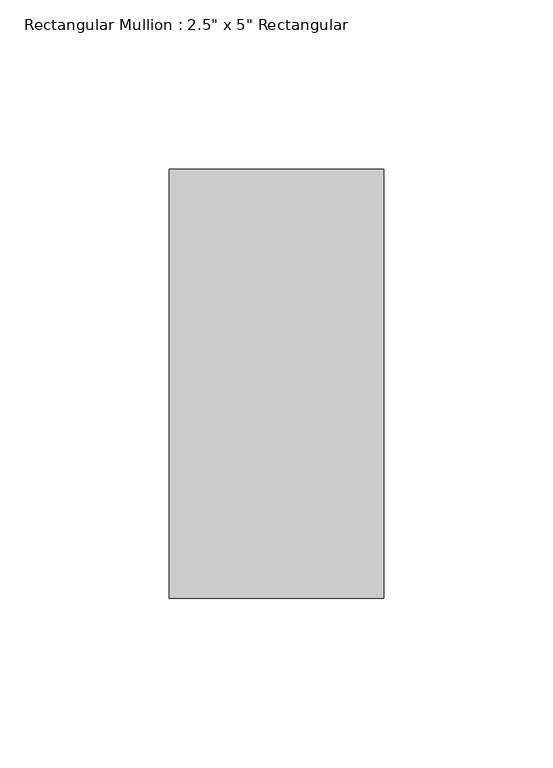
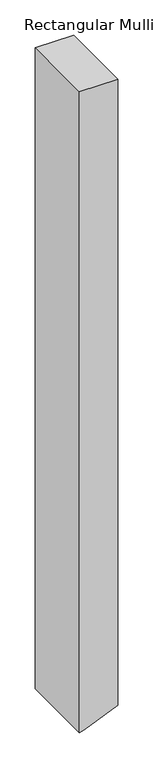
"""IFC4 building model written with IfcOpenShell, lengths in millimetres: member geometry."""

import ifcopenshell
import ifcopenshell.guid

model = None  # the IFC model being written
_history = None  # IfcOwnerHistory: only IFC2X3 demands one
_inside = {}  # id of a spatial element -> (the spatial element, [elements in it])
_under = {}  # id of a project, library or spatial element -> (it, [spatial elements below it])
_declared = {}  # id of a project -> (the project, [libraries it declares])
_typed = {}  # id of a type object -> (the type object, [elements of that type])
_made_of = {}  # id of a material, layer set ... -> (it, [elements and type objects made of it])


def new_model(schema):
    """Start an empty IFC model of exactly this schema.

    Asked for "IFC4X3", IfcOpenShell would pick the latest addendum, in which some entities
    have other attributes; the version numbers below select the first issue.
    IFC2X3 requires an IfcOwnerHistory on every rooted entity: one is made here for all.
    """
    global model, _history
    if schema == "IFC4X3":
        model = ifcopenshell.file(schema_version=(4, 3, 0, 0))
    else:
        model = ifcopenshell.file(schema=schema)
    _inside.clear()
    _under.clear()
    _declared.clear()
    _typed.clear()
    _made_of.clear()
    _history = None
    if model.schema == "IFC2X3":
        org = make("IfcOrganization", Name="unknown")
        user = make(
            "IfcPersonAndOrganization",
            ThePerson=make("IfcPerson", FamilyName="unknown"),
            TheOrganization=org,
        )
        app = make(
            "IfcApplication",
            ApplicationDeveloper=org,
            Version="unknown",
            ApplicationFullName="unknown",
            ApplicationIdentifier="unknown",
        )
        _history = make(
            "IfcOwnerHistory",
            OwningUser=user,
            OwningApplication=app,
            ChangeAction="ADDED",
            CreationDate=0,
        )
    return model


def make(cls, **values):
    """One entity of the class cls with the attributes given. An attribute that is None is left unset."""
    return model.create_entity(
        cls, **{name: value for name, value in values.items() if value is not None}
    )


def rooted(cls, **values):
    """An entity with a GlobalId (a new one), such as an element, a storey or a relation."""
    return make(cls, GlobalId=ifcopenshell.guid.new(), OwnerHistory=_history, **values)


def si_unit(unit_type, name, prefix=None):
    """IfcSIUnit, for example si_unit("LENGTHUNIT", "METRE", prefix="MILLI")."""
    return make("IfcSIUnit", UnitType=unit_type, Prefix=prefix, Name=name)


def assignment(units):
    """IfcUnitAssignment: the units of a project."""
    return None if units is None else make("IfcUnitAssignment", Units=units)


def point(xyz):
    """IfcCartesianPoint."""
    return None if xyz is None else make("IfcCartesianPoint", Coordinates=xyz)


def direction(xyz):
    """IfcDirection."""
    return None if xyz is None else make("IfcDirection", DirectionRatios=xyz)


def frame(location, z_axis=None, x_axis=None):
    """IfcAxis2Placement3D, a coordinate frame: its origin and axes. An axis left out is left unset."""
    return make(
        "IfcAxis2Placement3D",
        Location=point(location),
        Axis=direction(z_axis),
        RefDirection=direction(x_axis),
    )


def origin():
    """The frame at (0, 0, 0) with its axes left unset."""
    return frame((0.0, 0.0, 0.0))


def place(relative_to, where):
    """IfcLocalPlacement: puts the frame where relative to a parent placement (None: the world)."""
    return make(
        "IfcLocalPlacement", PlacementRelTo=relative_to, RelativePlacement=where
    )


def context(
    kind, dimensions, precision=None, world=None, true_north=None, identifier=None
):
    """IfcGeometricRepresentationContext, for example the 3D "Model" context."""
    return make(
        "IfcGeometricRepresentationContext",
        ContextIdentifier=identifier,
        ContextType=kind,
        CoordinateSpaceDimension=dimensions,
        Precision=precision,
        WorldCoordinateSystem=world,
        TrueNorth=true_north,
    )


def project(units=None, contexts=None):
    """IfcProject with its units and contexts."""
    return rooted(
        "IfcProject",
        Name="project",
        RepresentationContexts=contexts,
        UnitsInContext=assignment(units),
    )


def spatial(cls, under=None, at=None, **own):
    """A site, building, storey or space (cls), placed at a placement, below another one or the project."""
    s = rooted(cls, ObjectPlacement=at, **own)
    if under is not None:
        _under.setdefault(under.id(), (under, []))[1].append(s)
    return s


def polyline(points):
    """IfcPolyline through the points."""
    return make("IfcPolyline", Points=[point(p) for p in points])


def outline(outer, holes=None, kind="AREA"):
    """IfcArbitraryClosedProfileDef: a profile drawn as a closed curve; with holes, ...WithVoids."""
    if holes is None:
        return make("IfcArbitraryClosedProfileDef", ProfileType=kind, OuterCurve=outer)
    return make(
        "IfcArbitraryProfileDefWithVoids",
        ProfileType=kind,
        OuterCurve=outer,
        InnerCurves=holes,
    )


def extrude(swept, where, along, depth):
    """IfcExtrudedAreaSolid: the profile swept, set in the frame where, extruded along a direction by depth."""
    return make(
        "IfcExtrudedAreaSolid",
        SweptArea=swept,
        Position=where,
        ExtrudedDirection=direction(along),
        Depth=depth,
    )


def shape(context_of_items, identifier, shape_type, items):
    """IfcShapeRepresentation: the items that make up one representation, for example the "Body"."""
    return make(
        "IfcShapeRepresentation",
        ContextOfItems=context_of_items,
        RepresentationIdentifier=identifier,
        RepresentationType=shape_type,
        Items=items,
    )


def source(mapping_origin, context_of_items, identifier, shape_type, items):
    """IfcRepresentationMap: a shape defined once, which mapped items show again and again."""
    return make(
        "IfcRepresentationMap",
        MappingOrigin=mapping_origin,
        MappedRepresentation=shape(context_of_items, identifier, shape_type, items),
    )


def transform(
    local_origin,
    x_axis=None,
    y_axis=None,
    z_axis=None,
    scale=None,
    scale2=None,
    scale3=None,
    uniform=True,
):
    """IfcCartesianTransformationOperator3D, or its non-uniform kind. x_axis, y_axis, z_axis: its Axis1, 2, 3."""
    if uniform:
        return make(
            "IfcCartesianTransformationOperator3D",
            Axis1=direction(x_axis),
            Axis2=direction(y_axis),
            LocalOrigin=point(local_origin),
            Scale=scale,
            Axis3=direction(z_axis),
        )
    return make(
        "IfcCartesianTransformationOperator3DnonUniform",
        Axis1=direction(x_axis),
        Axis2=direction(y_axis),
        LocalOrigin=point(local_origin),
        Scale=scale,
        Axis3=direction(z_axis),
        Scale2=scale2,
        Scale3=scale3,
    )


def mapped(mapping_source, mapping_target):
    """IfcMappedItem: shows the shape of a source again, moved by a transform."""
    return make(
        "IfcMappedItem", MappingSource=mapping_source, MappingTarget=mapping_target
    )


def made_of(thing, what):
    """Note that an element or type object is made of a material, layer set ...; save() writes the relation."""
    if what is not None:
        _made_of.setdefault(what.id(), (what, []))[1].append(thing)
    return thing


def element(
    cls,
    number,
    at=None,
    inside=None,
    cuts=None,
    type_object=None,
    material=None,
    context=None,
    identifier="Body",
    shape_type=None,
    held_by="IfcProductDefinitionShape",
    body=None,
    shapes=None,
    **own,
):
    """One element of the class cls, such as IfcWall. Its Tag is "e" and its number.

    at: its placement. inside: the storey or other place that contains it. cuts: it is an
    opening in that element (IfcRelVoidsElement). A single representation is given by context,
    identifier, shape_type and body (its items); several are given by shapes. held_by: the class
    of the entity that holds the representations. save() writes the other relations.
    """
    e = rooted(cls, Tag="e%d" % number, ObjectPlacement=at, **own)
    if body is not None:
        shapes = [shape(context, identifier, shape_type, body)]
    if shapes is not None:
        e.Representation = make(held_by, Representations=shapes)
    if inside is not None:
        _inside.setdefault(inside.id(), (inside, []))[1].append(e)
    if cuts is not None:
        rooted(
            "IfcRelVoidsElement", RelatingBuildingElement=cuts, RelatedOpeningElement=e
        )
    if type_object is not None:
        _typed.setdefault(type_object.id(), (type_object, []))[1].append(e)
    return made_of(e, material)


def aggregate(whole, parts):
    """IfcRelAggregates: a whole, such as a stair, and the parts it consists of."""
    return rooted("IfcRelAggregates", RelatingObject=whole, RelatedObjects=parts)


def save(model, path):
    """Write the relations noted so far, then the file.

    IfcRelAggregates (storeys below a building ...), IfcRelContainedInSpatialStructure (elements
    in a storey), IfcRelDefinesByType, IfcRelAssociatesMaterial and IfcRelDeclares: one each for
    every whole, place, type object, material and project.
    """
    for whole, parts in _under.values():
        aggregate(whole, parts)
    for where, things in _inside.values():
        rooted(
            "IfcRelContainedInSpatialStructure",
            RelatedElements=things,
            RelatingStructure=where,
        )
    for kind, things in _typed.values():
        rooted("IfcRelDefinesByType", RelatedObjects=things, RelatingType=kind)
    for what, things in _made_of.values():
        rooted("IfcRelAssociatesMaterial", RelatedObjects=things, RelatingMaterial=what)
    for by, libraries in _declared.values():
        rooted("IfcRelDeclares", RelatingContext=by, RelatedDefinitions=libraries)
    model.write(path)


def member_c459f87c(model_context):
    return source(origin(), model_context, "Body", "SweptSolid", [
        extrude(outline(polyline([(0.0, 31.75), (0.0, -31.75), (-1117.6054868, -31.75), (-1114.4613494, -24.0768927), (-1091.5856859, 31.75), (0.0, 31.75)])), frame((0.0, -63.5, 0.0), z_axis=(0.0, 1.0, 0.0), x_axis=(0.0, 0.0, 1.0)), (0.0, 0.0, 1.0), 127.0),
    ])


if __name__ == "__main__":
    model = new_model("IFC4")
    model_context = context("Model", 3, world=origin())
    ifc_project = project(units=[si_unit("LENGTHUNIT", "METRE", prefix="MILLI")], contexts=[model_context])
    site = spatial("IfcSite", under=ifc_project)
    building = spatial("IfcBuilding", under=site)
    placement = place(None, origin())
    member_shape = member_c459f87c(model_context)
    element("IfcMember", 1, ObjectType="Rectangular Mullion : 2.5\" x 5\" Rectangular", at=placement, inside=building, context=model_context, shape_type="MappedRepresentation", body=[
        mapped(member_shape, transform((0.0, 0.0, 0.0), x_axis=(1.0, 0.0, 0.0), y_axis=(0.0, 1.0, 0.0), z_axis=(0.0, 0.0, 1.0))),
    ])
    save(model, "model.ifc")
